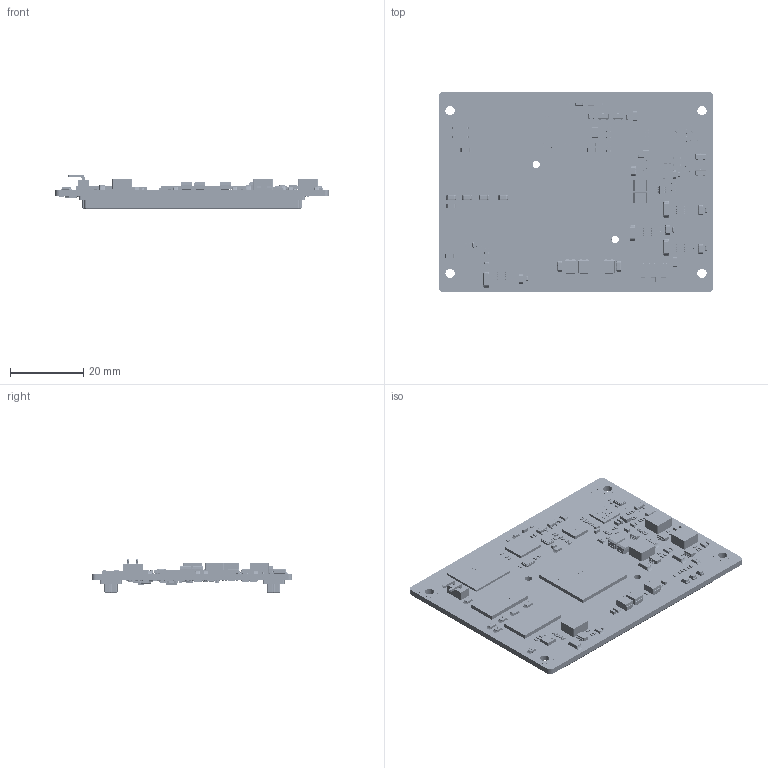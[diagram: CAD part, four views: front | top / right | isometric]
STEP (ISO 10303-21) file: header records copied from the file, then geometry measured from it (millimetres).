
FILE_DESCRIPTION (( 'STEP AP214' ), '1' );
FILE_NAME ('MYC-C7Z010-20-V2-0712-2.STEP', '2022-07-12T06:51:47', ( '' ), ( '' ), 'SwSTEP 2.0', 'SolidWorks 2022', '' );
FILE_SCHEMA (( 'AUTOMOTIVE_DESIGN' ));
Length unit declared in the file: millimetre
Products named in the file (81): Cylinder.stp.STEP.STEP; VSSOP8.stp.STEP.STEP; FB0603.stp.STEP.STEP; VSON10.stp.STEP.STEP; R0402.stp.STEP.STEP; 858032240.stp.STEP.STEP; C1206.stp.STEP.STEP; SW3dPS-led805R-1.stp.STEP.STEP; VSON10-1.stp.STEP.STEP; User Library-FBGA96_14x8mm.stp.STEP.STEP; SC70-6-1.stp.STEP.STEP; QFN48-0_4.stp.STEP.STEP; BGA400-1.stp.STEP.STEP; COMPONENTS.stp.STEP.STEP; M2_5.stp.STEP.STEP; TEST0_8smd.stp.STEP.STEP; L5_2X5_5.stp.STEP.STEP; 5177983-6.stp.STEP.STEP; TSOT-23-8.stp.STEP.STEP; TP_SMT.stp.STEP.STEP; C0603.stp.STEP.STEP; CONN-61082-140.stp.STEP.STEP; 858032368.stp.STEP.STEP; R0402-5.stp.STEP.STEP; MYC-C7Z010-20-V2-0712-2; User Library-SOT-23-5_pin_SOT_sot-23-6_1.stp.STEP.STEP; L2X2_5.stp.STEP.STEP; SOT23-5.stp.STEP.STEP; M2_5-4.stp.STEP.STEP; Cylinder_2.stp.STEP.STEP; CONN1X2-2_54-PA.stp.STEP.STEP; 857275360.stp.STEP.STEP; 894460672.stp.STEP.STEP; BGA400.stp.STEP.STEP; TSOT23-8.stp.STEP.STEP; MYC-C7010-BOARD.stp.STEP.STEP; Extruded_2.stp.STEP.STEP; User Library-WSON-8_6x8mm.stp.STEP.STEP; BAR2PTS02.stp.STEP.STEP; Extruded_3.stp.STEP.STEP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
Assembly tree (424 placements, depth 10):
  MYC-C7Z010-20-V2-0712-2
    MYC-C7Z010-20-V2-0712-1.STEP
      MYC-C7Z010-20-V2-0712-1.STEP.STEP
        MYC-C7Z010-20-V2-0712.stp.STEP.STEP
          COMPONENTS.stp.STEP.STEP
            MYC-C7010-BOARD.stp.STEP.STEP
              MYC-C7010-BOARD-0.stp.STEP.STEP
            CT3528-B.stp.STEP.STEP  x5
              User Library-Solid Tantalum Chip Capacitor.stp.STEP.STEP
            BGA400.stp.STEP.STEP
              BGA400-1.stp.STEP.STEP
            QFN32.stp.STEP.STEP
              QFN32-5x5.stp.STEP.STEP
            VSSOP8.stp.STEP.STEP  x2
              VSSOP-8.stp.STEP.STEP
            FBGA96.stp.STEP.STEP  x2
              User Library-FBGA96_14x8mm.stp.STEP.STEP
            BGA153_C010S.stp.STEP.STEP
              BGA153.stp.STEP.STEP
            WSON8-1_27-W.stp.STEP.STEP
              User Library-WSON-8_6x8mm.stp.STEP.STEP
                Designator14.stp.STEP.STEP
                  858032368.stp.STEP.STEP
                  858032240.stp.STEP.STEP  x8
                  858031856.stp.STEP.STEP  x8
                  857275360.stp.STEP.STEP
                  894460672.stp.STEP.STEP
                Board.stp.STEP.STEP
            SC70-6.stp.STEP.STEP
              SC70-6-1.stp.STEP.STEP
            L5_2X5_5.stp.STEP.STEP  x4
              L5_2X5_5-2.stp.STEP.STEP
            TP_SMT.stp.STEP.STEP
              TEST0_8smd.stp.STEP.STEP
            L2X2_5.stp.STEP.STEP
              L2520.stp.STEP.STEP
            FB0603.stp.STEP.STEP  x17
              FB0603-3.stp.STEP.STEP
            3225.stp.STEP.STEP  x3
              OSCCC320X250X80L90X100.stp.STEP.STEP
            QFN48-0_4.stp.STEP.STEP
              User Library-QFN 48 6x6 pitch 0.4.stp.STEP.STEP
            BAR2PTS02.stp.STEP.STEP
              CONN1X2-2_54-PA.stp.STEP.STEP
            TSOT23-8.stp.STEP.STEP  x4
              TSOT-23-8.stp.STEP.STEP
                TSOT-23-8.STEP.stp.STEP.STEP
                  Assy_FUSS tsot238___ _________.STEP.stp.STEP.STEP  x2
                  Part TSOT-23-8___ _________.STEP.stp.STEP.STEP
            VSON10.stp.STEP.STEP
              VSON10-1.stp.STEP.STEP
            SOT-23.stp.STEP.STEP  x5
              SOT23-3.stp.STEP.STEP
            LED0805.stp.STEP.STEP  x3
              SW3dPS-led805R-1.stp.STEP.STEP
            5177983-6.stp.STEP.STEP  x2
              CONN-61082-140.stp.STEP.STEP
            ID-BOARD.stp.STEP.STEP  x6
              TEST_020.stp.STEP.STEP
            M2_5.stp.STEP.STEP  x4
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Bounding box: 75 x 55 x 9.23 mm (x, y, z)
Volume: 9390 mm3; surface area: 16945.2 mm2
Topology: 1005 solids, 1132 shells, 59435 faces, 160529 edges, 107041 vertices
Faces by surface type: plane 25503, bspline 21029, cylinder 11485, sphere 760, torus 630, cone 28
Entity records: 273655 total; most frequent: CARTESIAN_POINT 82669, ORIENTED_EDGE 36490, DIRECTION 33199, EDGE_CURVE 18255, VERTEX_POINT 12068, AXIS2_PLACEMENT_3D 11383, VECTOR 10433, LINE 10433
